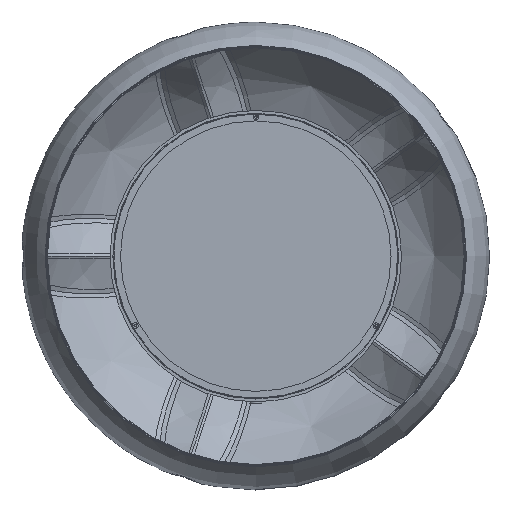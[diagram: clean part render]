
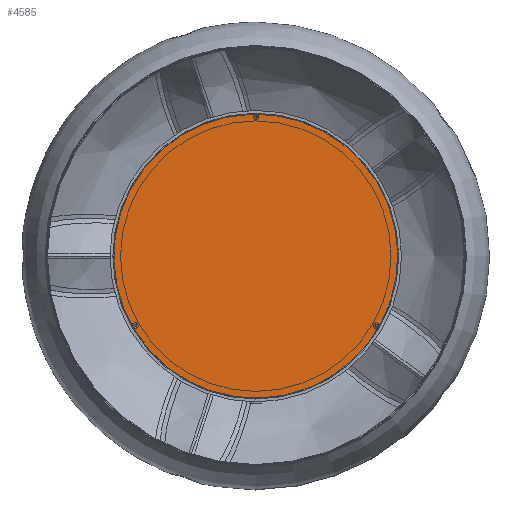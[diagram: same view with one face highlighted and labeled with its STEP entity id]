
A CAD part, front view. The second image highlights one B-rep face of the part: STEP entity #4585.
In plain terms, the highlighted planar face has unit normal (0, -1, 0).
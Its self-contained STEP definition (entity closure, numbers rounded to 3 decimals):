
#1003=FACE_OUTER_BOUND('',#1336,.T.);
#1336=EDGE_LOOP('',(#3862));
#1660=CIRCLE('',#5177,148.5);
#2046=VERTEX_POINT('',#10795);
#2651=EDGE_CURVE('',#2046,#2046,#1660,.T.);
#3862=ORIENTED_EDGE('',*,*,#2651,.T.);
#3959=PLANE('',#5180);
#4585=ADVANCED_FACE('',(#1003),#3959,.T.);
#5177=AXIS2_PLACEMENT_3D('',#10796,#6376,#6377);
#5180=AXIS2_PLACEMENT_3D('',#10801,#6383,#6384);
#6376=DIRECTION('center_axis',(0.,-1.,0.));
#6377=DIRECTION('ref_axis',(0.978,0.,0.209));
#6383=DIRECTION('center_axis',(0.,-1.,0.));
#6384=DIRECTION('ref_axis',(-0.978,0.,-0.209));
#10795=CARTESIAN_POINT('',(-145.208,1.,-31.094));
#10796=CARTESIAN_POINT('Origin',(0.,1.,
0.));
#10801=CARTESIAN_POINT('Origin',(0.,1.,
0.));
